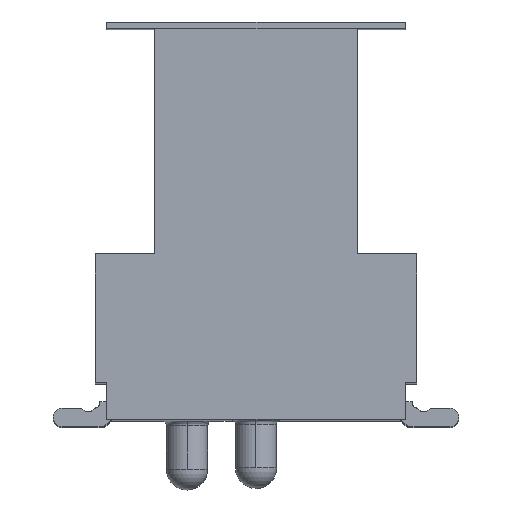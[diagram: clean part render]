
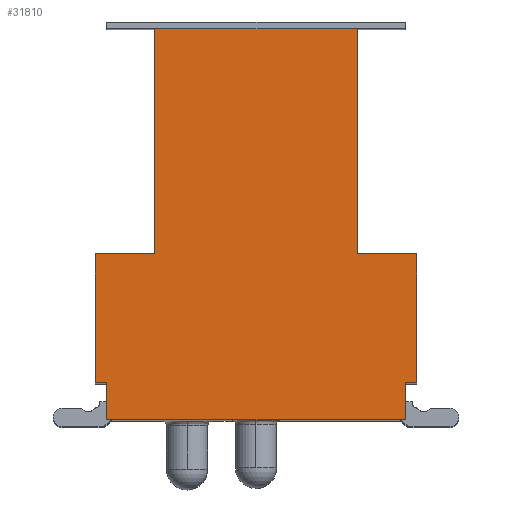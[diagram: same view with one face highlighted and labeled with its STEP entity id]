
A CAD part, top view. The second image highlights one B-rep face of the part: STEP entity #31810.
In plain terms, the highlighted planar face has unit normal (0, 0, 1).
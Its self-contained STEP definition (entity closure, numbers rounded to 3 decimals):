
#834 = EDGE_CURVE ( 'NONE', #37110, #37368, #39064, .T. ) ;
#849 = EDGE_CURVE ( 'NONE', #37771, #38270, #38994, .T. ) ;
#860 = EDGE_CURVE ( 'NONE', #37114, #37110, #38986, .T. ) ;
#863 = EDGE_CURVE ( 'NONE', #8678, #38320, #38982, .T. ) ;
#907 = EDGE_CURVE ( 'NONE', #37571, #38320, #1460, .T. ) ;
#915 = EDGE_CURVE ( 'NONE', #37368, #37501, #1421, .T. ) ;
#1121 = EDGE_CURVE ( 'NONE', #37284, #37771, #1900, .T. ) ;
#1410 = DIRECTION ( 'NONE',  ( 0., -1., 0. ) ) ;
#1411 = CARTESIAN_POINT ( 'NONE',  ( -2.622, -1.538, 10.3 ) ) ;
#1421 = LINE ( 'NONE', #1411, #43732 ) ;
#1439 = DIRECTION ( 'NONE',  ( 0., -1., 0. ) ) ;
#1442 = CARTESIAN_POINT ( 'NONE',  ( -3.922, -1.538, 10.3 ) ) ;
#1460 = LINE ( 'NONE', #1442, #43758 ) ;
#1900 = LINE ( 'NONE', #1901, #44521 ) ;
#1901 = CARTESIAN_POINT ( 'NONE',  ( -3.922, -0.738, 10.3 ) ) ;
#1911 = DIRECTION ( 'NONE',  ( 1., 0., 0. ) ) ;
#5164 = EDGE_LOOP ( 'NONE', ( #6813, #6821, #6820, #6841, #6817, #6822, #6824, #6832, #6828, #6825, #6827, #6834 ) ) ;
#6813 = ORIENTED_EDGE ( 'NONE', *, *, #863, .F. ) ;
#6817 = ORIENTED_EDGE ( 'NONE', *, *, #1121, .T. ) ;
#6820 = ORIENTED_EDGE ( 'NONE', *, *, #33022, .T. ) ;
#6821 = ORIENTED_EDGE ( 'NONE', *, *, #32864, .T. ) ;
#6822 = ORIENTED_EDGE ( 'NONE', *, *, #849, .T. ) ;
#6824 = ORIENTED_EDGE ( 'NONE', *, *, #19654, .T. ) ;
#6825 = ORIENTED_EDGE ( 'NONE', *, *, #915, .T. ) ;
#6827 = ORIENTED_EDGE ( 'NONE', *, *, #19766, .T. ) ;
#6828 = ORIENTED_EDGE ( 'NONE', *, *, #834, .T. ) ;
#6832 = ORIENTED_EDGE ( 'NONE', *, *, #860, .T. ) ;
#6834 = ORIENTED_EDGE ( 'NONE', *, *, #907, .T. ) ;
#6841 = ORIENTED_EDGE ( 'NONE', *, *, #33020, .F. ) ;
#8023 = VECTOR ( 'NONE', #9088, 1000. ) ;
#8199 = VECTOR ( 'NONE', #9274, 1000. ) ;
#8678 = VERTEX_POINT ( 'NONE', #23572 ) ;
#9086 = LINE ( 'NONE', #9087, #8023 ) ;
#9087 = CARTESIAN_POINT ( 'NONE',  ( 1.778, 2.062, 10.3 ) ) ;
#9088 = DIRECTION ( 'NONE',  ( -1., 0., 0. ) ) ;
#9255 = LINE ( 'NONE', #9273, #8199 ) ;
#9273 = CARTESIAN_POINT ( 'NONE',  ( -3.922, 2.062, 10.3 ) ) ;
#9274 = DIRECTION ( 'NONE',  ( -1., 0., 0. ) ) ;
#14783 = CARTESIAN_POINT ( 'NONE',  ( 2.828, -1.538, 10.3 ) ) ;
#14846 = CARTESIAN_POINT ( 'NONE',  ( -3.672, -1.538, 10.3 ) ) ;
#19654 = EDGE_CURVE ( 'NONE', #38270, #37114, #9086, .T. ) ;
#19766 = EDGE_CURVE ( 'NONE', #37501, #37571, #9255, .T. ) ;
#22314 = AXIS2_PLACEMENT_3D ( 'NONE', #45411, #45412, #45413 ) ;
#23572 = CARTESIAN_POINT ( 'NONE',  ( -3.672, -0.738, 10.3 ) ) ;
#27618 = LINE ( 'NONE', #27619, #31529 ) ;
#27619 = CARTESIAN_POINT ( 'NONE',  ( -3.672, -1.538, 10.3 ) ) ;
#27620 = DIRECTION ( 'NONE',  ( 0., -1., 0. ) ) ;
#27885 = LINE ( 'NONE', #27886, #31696 ) ;
#27886 = CARTESIAN_POINT ( 'NONE',  ( 2.828, -1.538, 10.3 ) ) ;
#27887 = DIRECTION ( 'NONE',  ( 0., -1., 0. ) ) ;
#27888 = LINE ( 'NONE', #27889, #31698 ) ;
#27889 = CARTESIAN_POINT ( 'NONE',  ( -3.922, -1.538, 10.3 ) ) ;
#27890 = DIRECTION ( 'NONE',  ( 1., 0., 0. ) ) ;
#31529 = VECTOR ( 'NONE', #27620, 1000. ) ;
#31696 = VECTOR ( 'NONE', #27887, 1000. ) ;
#31698 = VECTOR ( 'NONE', #27890, 1000. ) ;
#31810 = ADVANCED_FACE ( 'NONE', ( #45401 ), #45386, .T. ) ;
#32864 = EDGE_CURVE ( 'NONE', #8678, #46513, #27618, .T. ) ;
#33020 = EDGE_CURVE ( 'NONE', #37284, #46418, #27885, .T. ) ;
#33022 = EDGE_CURVE ( 'NONE', #46513, #46418, #27888, .T. ) ;
#34546 = CARTESIAN_POINT ( 'NONE',  ( 1.778, 6.962, 10.3 ) ) ;
#34550 = CARTESIAN_POINT ( 'NONE',  ( 1.778, 2.062, 10.3 ) ) ;
#34720 = CARTESIAN_POINT ( 'NONE',  ( 2.828, -0.738, 10.3 ) ) ;
#34804 = CARTESIAN_POINT ( 'NONE',  ( -2.622, 6.962, 10.3 ) ) ;
#34937 = CARTESIAN_POINT ( 'NONE',  ( -2.622, 2.062, 10.3 ) ) ;
#35007 = CARTESIAN_POINT ( 'NONE',  ( -3.922, 2.062, 10.3 ) ) ;
#35206 = CARTESIAN_POINT ( 'NONE',  ( 3.078, -0.738, 10.3 ) ) ;
#35639 = CARTESIAN_POINT ( 'NONE',  ( 3.078, 2.062, 10.3 ) ) ;
#35689 = CARTESIAN_POINT ( 'NONE',  ( -3.922, -0.738, 10.3 ) ) ;
#37110 = VERTEX_POINT ( 'NONE', #34546 ) ;
#37114 = VERTEX_POINT ( 'NONE', #34550 ) ;
#37284 = VERTEX_POINT ( 'NONE', #34720 ) ;
#37368 = VERTEX_POINT ( 'NONE', #34804 ) ;
#37501 = VERTEX_POINT ( 'NONE', #34937 ) ;
#37571 = VERTEX_POINT ( 'NONE', #35007 ) ;
#37771 = VERTEX_POINT ( 'NONE', #35206 ) ;
#38270 = VERTEX_POINT ( 'NONE', #35639 ) ;
#38320 = VERTEX_POINT ( 'NONE', #35689 ) ;
#38982 = LINE ( 'NONE', #39107, #44203 ) ;
#38986 = LINE ( 'NONE', #39082, #43754 ) ;
#38992 = DIRECTION ( 'NONE',  ( 0., 1., 0. ) ) ;
#38993 = CARTESIAN_POINT ( 'NONE',  ( 3.078, -1.538, 10.3 ) ) ;
#38994 = LINE ( 'NONE', #38993, #44303 ) ;
#39026 = DIRECTION ( 'NONE',  ( -1., 0., 0. ) ) ;
#39033 = DIRECTION ( 'NONE',  ( 0., 1., 0. ) ) ;
#39049 = DIRECTION ( 'NONE',  ( -1., 0., 0. ) ) ;
#39052 = CARTESIAN_POINT ( 'NONE',  ( -3.922, 6.962, 10.3 ) ) ;
#39064 = LINE ( 'NONE', #39052, #44459 ) ;
#39082 = CARTESIAN_POINT ( 'NONE',  ( 1.778, -1.538, 10.3 ) ) ;
#39107 = CARTESIAN_POINT ( 'NONE',  ( -3.922, -0.738, 10.3 ) ) ;
#43732 = VECTOR ( 'NONE', #1410, 1000. ) ;
#43754 = VECTOR ( 'NONE', #39033, 1000. ) ;
#43758 = VECTOR ( 'NONE', #1439, 1000. ) ;
#44203 = VECTOR ( 'NONE', #39026, 1000. ) ;
#44303 = VECTOR ( 'NONE', #38992, 1000. ) ;
#44459 = VECTOR ( 'NONE', #39049, 1000. ) ;
#44521 = VECTOR ( 'NONE', #1911, 1000. ) ;
#45386 = PLANE ( 'NONE',  #22314 ) ;
#45401 = FACE_OUTER_BOUND ( 'NONE', #5164, .T. ) ;
#45411 = CARTESIAN_POINT ( 'NONE',  ( -3.922, -1.538, 10.3 ) ) ;
#45412 = DIRECTION ( 'NONE',  ( 0., 0., 1. ) ) ;
#45413 = DIRECTION ( 'NONE',  ( 1., 0., 0. ) ) ;
#46418 = VERTEX_POINT ( 'NONE', #14783 ) ;
#46513 = VERTEX_POINT ( 'NONE', #14846 ) ;
